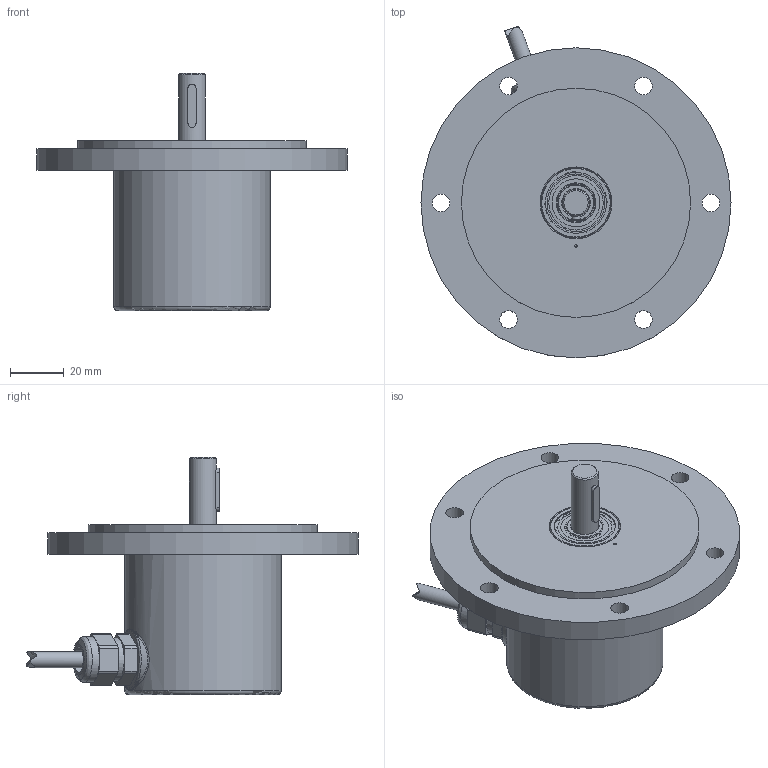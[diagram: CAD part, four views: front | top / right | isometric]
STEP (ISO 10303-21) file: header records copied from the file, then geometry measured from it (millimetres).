
FILE_DESCRIPTION((''),'2;1');
FILE_NAME('V:\Wachendorff Automation\Abteilungsübergreifende Dateien\WDG-Artikel\1\115TxxxxK3\04_Mechan_Konstruktionsunterlagen\115TxxxxK3.stp','2013-08-12T14:19:09',('jas'),(''),'Autodesk Inventor 2008','Autodesk Inventor 2008','');
FILE_SCHEMA(('AUTOMOTIVE_DESIGN { 1 0 10303 214 1 1 1 1 }'));
Length unit declared in the file: millimetre
Products named in the file (1): Bauteil53
Bounding box: 115 x 123.13 x 88 mm (x, y, z)
Volume: 153349.8 mm3; surface area: 62679.2 mm2
Topology: 6 solids, 6 shells, 368 faces, 821 edges, 501 vertices
Faces by surface type: plane 107, bspline 106, cylinder 65, cone 39, sphere 28, torus 23
Full cylindrical faces by diameter (mm): 3 x4, 5.5 x2, 6 x1, 9.6 x1, 10 x3, 12.7 x1, 13 x1, 14.8 x6, 15 x1, 16 x1, 17 x1, 18 x1, 21.4 x4, 22.6 x8, 23 x1, 25.85 x1, 53.5 x1, 56 x2, 56.05 x1, 58 x1, 85 x1, 115 x1
Entity records: 20166 total; most frequent: CARTESIAN_POINT 12817, DIRECTION 1374, ORIENTED_EDGE 1270, EDGE_CURVE 635, AXIS2_PLACEMENT_3D 609, EDGE_LOOP 556, VERTEX_POINT 447, CIRCLE 360
